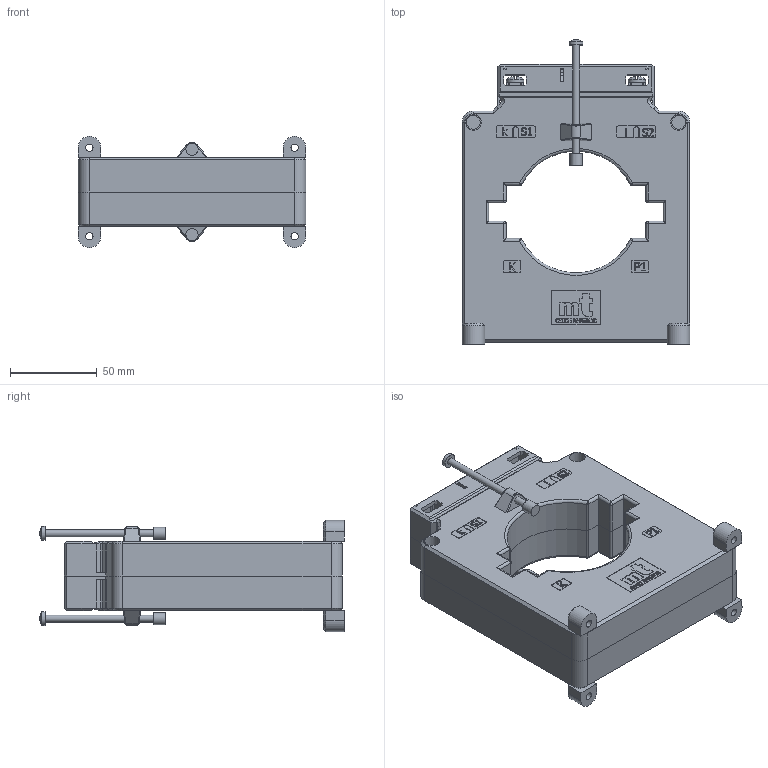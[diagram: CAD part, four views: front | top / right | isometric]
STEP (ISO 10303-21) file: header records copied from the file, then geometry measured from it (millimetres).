
FILE_DESCRIPTION(/* description */ (''),/* implementation_level */ '2;1');
FILE_NAME(/* name */ 'CLB 10.step',/* time_stamp */ '2024-10-12T15:13:23+02:00',/* author */ ('peter'),/* organization */ (''),/* preprocessor_version */ 'ST-DEVELOPER v20',/* originating_system */ 'Autodesk Inventor 2025',/* authorisation */ '');
FILE_SCHEMA (('AUTOMOTIVE_DESIGN { 1 0 10303 214 3 1 1 }'));
Length unit declared in the file: millimetre
Products named in the file (11): Current transformer CLB 10; Front plastic case CLB 10; Back plastic case CLB 10; Tape label CLB 10; Secondary terminal 28 CLB; Secondary terminal cover 37B CLB; Plastic mounting foot; Rivet 20; Insulating cap; Screw M5x8; Screw 4x70
Assembly tree (23 placements, depth 2):
  Current transformer CLB 10
    Front plastic case CLB 10
    Back plastic case CLB 10
    Tape label CLB 10
    Secondary terminal 28 CLB  x2
    Secondary terminal cover 37B CLB  x2
    Plastic mounting foot  x4
    Rivet 20  x4
    Insulating cap  x2
    Screw M5x8  x4
    Screw 4x70  x2
Bounding box: 131 x 174.97 x 64 mm (x, y, z)
Volume: 601246.9 mm3; surface area: 119786.1 mm2
Topology: 23 solids, 27 shells, 1841 faces, 4897 edges, 3188 vertices
Faces by surface type: plane 1150, bspline 381, cylinder 242, cone 46, torus 12, sphere 10
Full cylindrical faces by diameter (mm): 1.5 x4, 2.4 x4, 2.95 x2, 3 x6, 3.5 x2, 4 x8, 4.1 x4, 4.134 x4, 4.2 x4, 4.5 x4, 5 x8, 7 x2, 8 x14, 9 x8, 10 x4
Entity records: 51145 total; most frequent: CARTESIAN_POINT 14020, ORIENTED_EDGE 8318, DIRECTION 6150, EDGE_CURVE 4159, LINE 3000, VECTOR 3000, VERTEX_POINT 2719, EDGE_LOOP 1690
